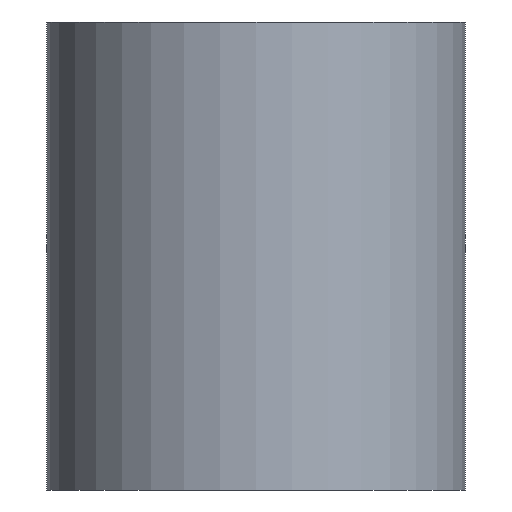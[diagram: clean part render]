
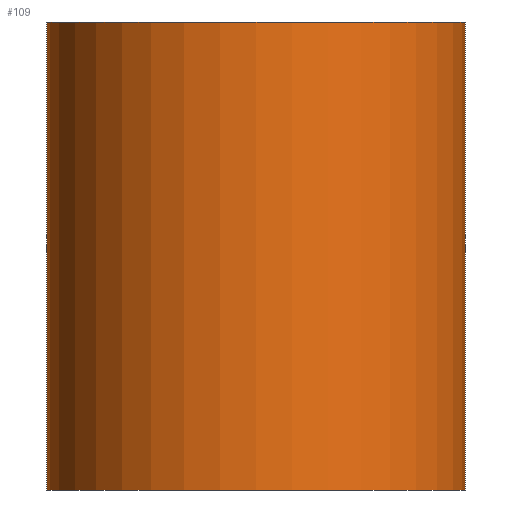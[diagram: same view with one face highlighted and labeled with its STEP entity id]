
A CAD part, left-side view. The second image highlights one B-rep face of the part: STEP entity #109.
In plain terms, the highlighted cylindrical face has radius 40.653 mm (diameter 81.306 mm), a full revolution.
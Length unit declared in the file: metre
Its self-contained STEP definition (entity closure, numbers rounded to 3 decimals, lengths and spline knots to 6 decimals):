
#30=ORIENTED_EDGE('',*,*,#48,.F.);
#31=ORIENTED_EDGE('',*,*,#49,.T.);
#48=EDGE_CURVE('',#57,#57,#66,.T.);
#49=EDGE_CURVE('',#58,#58,#67,.T.);
#57=VERTEX_POINT('',#226);
#58=VERTEX_POINT('',#228);
#66=CIRCLE('',#159,0.040653);
#67=CIRCLE('',#160,0.040653);
#71=EDGE_LOOP('',(#30));
#72=EDGE_LOOP('',(#31));
#89=FACE_BOUND('',#71,.T.);
#90=FACE_BOUND('',#72,.T.);
#107=CYLINDRICAL_SURFACE('',#158,0.040653);
#109=ADVANCED_FACE('',(#89,#90),#107,.T.);
#158=AXIS2_PLACEMENT_3D('',#224,#181,#182);
#159=AXIS2_PLACEMENT_3D('',#225,#183,#184);
#160=AXIS2_PLACEMENT_3D('',#227,#185,#186);
#181=DIRECTION('',(0.,0.,-1.));
#182=DIRECTION('',(-1.,0.,0.));
#183=DIRECTION('',(0.,0.,1.));
#184=DIRECTION('',(1.,0.,0.));
#185=DIRECTION('',(0.,0.,1.));
#186=DIRECTION('',(1.,0.,0.));
#224=CARTESIAN_POINT('',(0.,0.,0.090932));
#225=CARTESIAN_POINT('',(0.,0.,0.090932));
#226=CARTESIAN_POINT('',(0.040653,0.,0.090932));
#227=CARTESIAN_POINT('',(0.,0.,0.));
#228=CARTESIAN_POINT('',(0.040653,0.,0.));
